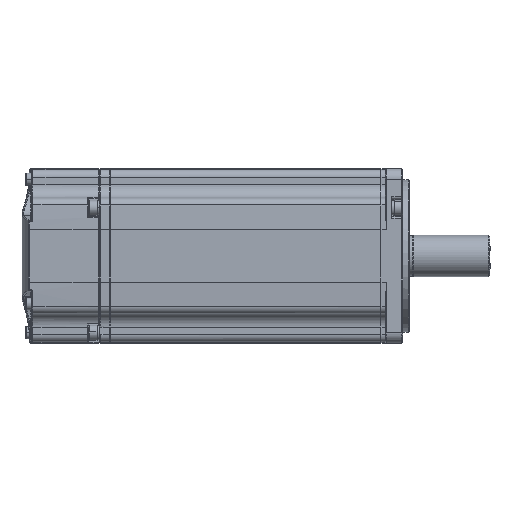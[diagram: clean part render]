
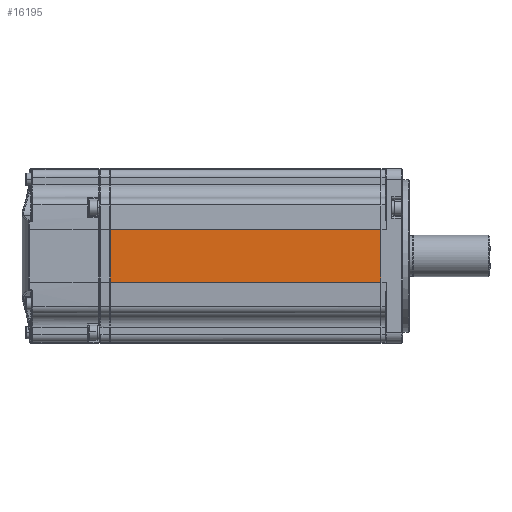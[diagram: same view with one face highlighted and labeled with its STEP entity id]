
A CAD part, top view. The second image highlights one B-rep face of the part: STEP entity #16195.
In plain terms, the highlighted planar face has unit normal (0, 0, 1).
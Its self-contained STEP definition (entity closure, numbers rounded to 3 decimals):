
#1780 = CARTESIAN_POINT ( 'NONE',  ( 67.092, 17.099, 249.001 ) ) ;
#2200 = B_SPLINE_CURVE_WITH_KNOTS ( 'NONE', 3,
 ( #30339, #30274, #30202, #30149 ),
 .UNSPECIFIED., .F., .F.,
 ( 4, 4 ),
 ( 0., 1. ),
 .UNSPECIFIED. ) ;
#6442 = CARTESIAN_POINT ( 'NONE',  ( 67.092, -6.901, 249.001 ) ) ;
#6857 = VERTEX_POINT ( 'NONE', #50090 ) ;
#8464 = EDGE_CURVE ( 'NONE', #11418, #6857, #2200, .T. ) ;
#10967 = CARTESIAN_POINT ( 'NONE',  ( 67.092, 9.099, 249.001 ) ) ;
#11334 = EDGE_LOOP ( 'NONE', ( #35212, #36949, #38058, #38439 ) ) ;
#11418 = VERTEX_POINT ( 'NONE', #55833 ) ;
#13140 = VERTEX_POINT ( 'NONE', #6442 ) ;
#13670 = CARTESIAN_POINT ( 'NONE',  ( -15.575, -6.901, 249.001 ) ) ;
#15814 = VERTEX_POINT ( 'NONE', #39480 ) ;
#16195 = ADVANCED_FACE ( 'NONE', ( #37995 ), #47568, .F. ) ;
#19143 = CARTESIAN_POINT ( 'NONE',  ( -15.575, 17.099, 249.001 ) ) ;
#23828 = CARTESIAN_POINT ( 'NONE',  ( 67.092, 17.099, 249.001 ) ) ;
#23991 = EDGE_CURVE ( 'NONE', #15814, #13140, #38757, .T. ) ;
#24015 = CARTESIAN_POINT ( 'NONE',  ( 67.092, 1.099, 249.001 ) ) ;
#25991 = B_SPLINE_CURVE_WITH_KNOTS ( 'NONE', 3,
 ( #26512, #35148, #13670, #43717 ),
 .UNSPECIFIED., .F., .F.,
 ( 4, 4 ),
 ( 0., 1. ),
 .UNSPECIFIED. ) ;
#26512 = CARTESIAN_POINT ( 'NONE',  ( 67.092, -6.901, 249.001 ) ) ;
#27786 = CARTESIAN_POINT ( 'NONE',  ( 25.759, 17.099, 249.001 ) ) ;
#30149 = CARTESIAN_POINT ( 'NONE',  ( -56.908, 17.099, 249.001 ) ) ;
#30202 = CARTESIAN_POINT ( 'NONE',  ( -56.908, 9.099, 249.001 ) ) ;
#30274 = CARTESIAN_POINT ( 'NONE',  ( -56.908, 1.099, 249.001 ) ) ;
#30339 = CARTESIAN_POINT ( 'NONE',  ( -56.908, -6.901, 249.001 ) ) ;
#34466 = EDGE_CURVE ( 'NONE', #6857, #15814, #37528, .T. ) ;
#35148 = CARTESIAN_POINT ( 'NONE',  ( 25.759, -6.901, 249.001 ) ) ;
#35212 = ORIENTED_EDGE ( 'NONE', *, *, #8464, .F. ) ;
#36949 = ORIENTED_EDGE ( 'NONE', *, *, #46988, .F. ) ;
#37528 = B_SPLINE_CURVE_WITH_KNOTS ( 'NONE', 3,
 ( #49164, #19143, #27786, #1780 ),
 .UNSPECIFIED., .F., .F.,
 ( 4, 4 ),
 ( 0., 1. ),
 .UNSPECIFIED. ) ;
#37995 = FACE_OUTER_BOUND ( 'NONE', #11334, .T. ) ;
#38058 = ORIENTED_EDGE ( 'NONE', *, *, #23991, .F. ) ;
#38439 = ORIENTED_EDGE ( 'NONE', *, *, #34466, .F. ) ;
#38757 = B_SPLINE_CURVE_WITH_KNOTS ( 'NONE', 3,
 ( #23828, #10967, #24015, #54205 ),
 .UNSPECIFIED., .F., .F.,
 ( 4, 4 ),
 ( -1., 0. ),
 .UNSPECIFIED. ) ;
#39480 = CARTESIAN_POINT ( 'NONE',  ( 67.092, 17.099, 249.001 ) ) ;
#43717 = CARTESIAN_POINT ( 'NONE',  ( -56.908, -6.901, 249.001 ) ) ;
#45975 = DIRECTION ( 'NONE',  ( -1., 0., 0. ) ) ;
#46119 = DIRECTION ( 'NONE',  ( 0., 0., -1. ) ) ;
#46161 = CARTESIAN_POINT ( 'NONE',  ( -57.408, 5.099, 249.001 ) ) ;
#46988 = EDGE_CURVE ( 'NONE', #13140, #11418, #25991, .T. ) ;
#47568 = PLANE ( 'NONE',  #52642 ) ;
#49164 = CARTESIAN_POINT ( 'NONE',  ( -56.908, 17.099, 249.001 ) ) ;
#50090 = CARTESIAN_POINT ( 'NONE',  ( -56.908, 17.099, 249.001 ) ) ;
#52642 = AXIS2_PLACEMENT_3D ( 'NONE', #46161, #46119, #45975 ) ;
#54205 = CARTESIAN_POINT ( 'NONE',  ( 67.092, -6.901, 249.001 ) ) ;
#55833 = CARTESIAN_POINT ( 'NONE',  ( -56.908, -6.901, 249.001 ) ) ;
